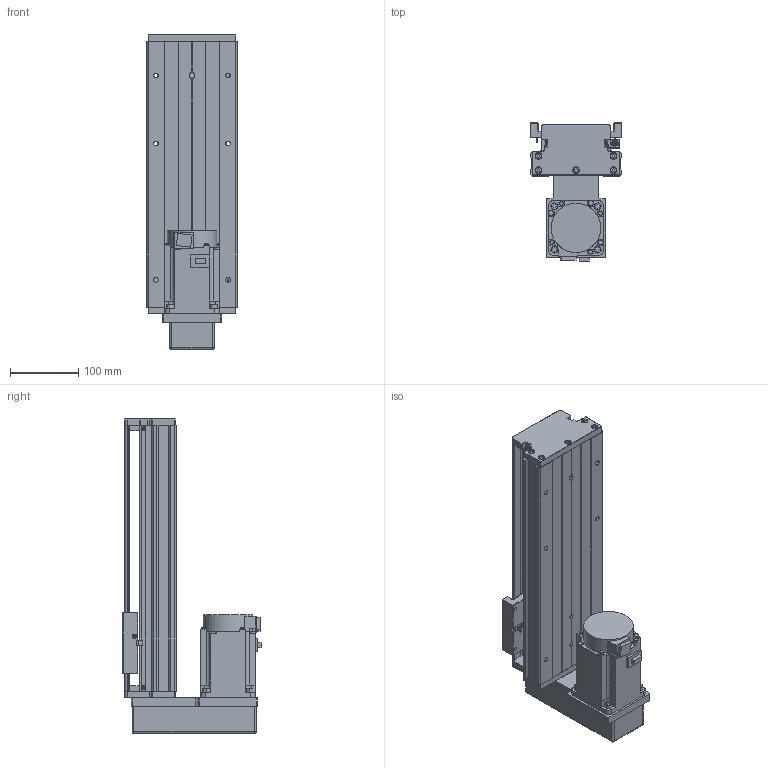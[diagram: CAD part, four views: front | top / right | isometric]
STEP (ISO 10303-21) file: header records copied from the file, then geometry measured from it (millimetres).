
FILE_DESCRIPTION (( 'STEP AP203' ), '1' );
FILE_NAME ('KTH130-250-BM-M75-C4.step', '2023-06-30T04:36:54', ( '微软用户' ), ( '微软中国' ), 'SwSTEP 2.0', 'SolidWorks 2020', '' );
FILE_SCHEMA (( 'CONFIG_CONTROL_DESIGN' ));
Length unit declared in the file: millimetre
Products named in the file (18): GBT 70.2-M3¡Á5_M3¡Á6; GBT 70.3-M3℅8; GTH14-001_250; CTHA60-017; hg-kn73j_-s100; KTH130-002_KTH130-002; EE_SX911P_R; CTHA86-015-3_CTHA86-015-4; KTH130-004; CTHA60-016; CTHA86-035; KTH130-005; GBT 70.1-M3℅5; KTH130-250-BM-M75-C4; GB1155-6X6; GBT77-2000 M3×3; GBT70.1 M5℅16; す晦芛蹟隊 M3℅5
Assembly tree (49 placements, depth 2):
  KTH130-250-BM-M75-C4
    GTH14-001_250
    KTH130-002_KTH130-002
    KTH130-004
    KTH130-005
    GB1155-6X6  x2
    GBT70.1 M5℅16  x10
    GBT 70.2-M3¡Á5_M3¡Á6  x4
    CTHA60-017  x3
    EE_SX911P_R  x3
    CTHA60-016  x2
    GBT 70.1-M3℅5  x6
    GBT77-2000 M3×3  x6
    す晦芛蹟隊 M3℅5  x2
    GBT 70.3-M3℅8  x4
    hg-kn73j_-s100
    CTHA86-015-3_CTHA86-015-4
    CTHA86-035
Bounding box: 135 x 202.8 x 462 mm (x, y, z)
Volume: 3674503.8 mm3; surface area: 534450.4 mm2
Topology: 52 solids, 52 shells, 2172 faces, 5268 edges, 3295 vertices
Faces by surface type: plane 1204, cylinder 614, cone 238, torus 100, sphere 16
Entity records: 39329 total; most frequent: CARTESIAN_POINT 6622, DIRECTION 6457, ORIENTED_EDGE 6040, EDGE_CURVE 3020, AXIS2_PLACEMENT_3D 2248, VECTOR 1961, LINE 1961, VERTEX_POINT 1929
